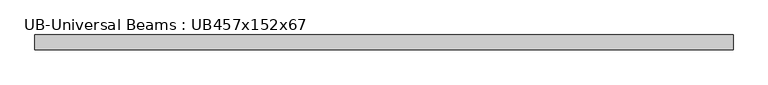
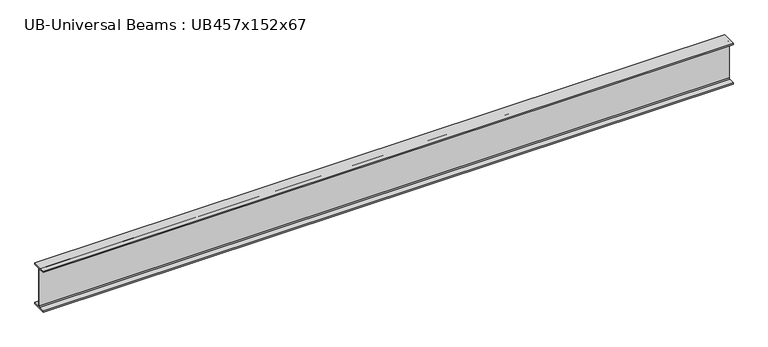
"""IFC4 building model written with IfcOpenShell, lengths in millimetres: beam geometry, UB-Universal Beams : UB457x152x67."""

from ifc_helpers import new_model, si_unit, point, frame, frame_2d, origin, place, context, project, spatial, polyline, circle_curve, trimmed, segment, composite_curve, outline, extrude, source, transform, mapped, element, save


def ub_universal_beams_ub457x152x67_907c3d5a(model_context):
    return source(origin(), model_context, "Body", "SweptSolid", [
        extrude(outline(composite_curve([segment(polyline([(76.9, -214.0), (76.9, -229.0), (-76.9, -229.0), (-76.9, -214.0), (-14.7, -214.0)]), True, "CONTINUOUS"), segment(trimmed(circle_curve(frame_2d((-14.7, -203.8)), 10.2), [point((-14.7, -214.0))], [point((-4.5, -203.8))], True, "CARTESIAN"), True, "CONTINUOUS"), segment(polyline([(-4.5, -203.8), (-4.5, 203.8)]), True, "CONTINUOUS"), segment(trimmed(circle_curve(frame_2d((-14.7, 203.8)), 10.2), [point((-4.5, 203.8))], [point((-14.7, 214.0))], True, "CARTESIAN"), True, "CONTINUOUS"), segment(polyline([(-14.7, 214.0), (-76.9, 214.0), (-76.9, 229.0), (76.9, 229.0), (76.9, 214.0), (14.7, 214.0)]), True, "CONTINUOUS"), segment(trimmed(circle_curve(frame_2d((14.7, 203.8)), 10.2), [point((14.7, 214.0))], [point((4.5, 203.8))], True, "CARTESIAN"), True, "CONTINUOUS"), segment(polyline([(4.5, 203.8), (4.5, -203.8)]), True, "CONTINUOUS"), segment(trimmed(circle_curve(frame_2d((14.7, -203.8)), 10.2), [point((4.5, -203.8))], [point((14.7, -214.0))], True, "CARTESIAN"), True, "CONTINUOUS"), segment(polyline([(14.7, -214.0), (76.9, -214.0)]), True, "CONTINUOUS")], self_intersect=False)), frame((-3737.2, 0.0, 0.0), z_axis=(1.0, 0.0, 0.0), x_axis=(0.0, 1.0, 0.0)), (0.0, 0.0, 1.0), 7317.0),
    ])


if __name__ == "__main__":
    model = new_model("IFC4")
    model_context = context("Model", 3, world=origin())
    ifc_project = project(units=[si_unit("LENGTHUNIT", "METRE", prefix="MILLI")], contexts=[model_context])
    site = spatial("IfcSite", under=ifc_project)
    building = spatial("IfcBuilding", under=site)
    placement = place(None, origin())
    ub_universal_beams_ub457x152x67_shape = ub_universal_beams_ub457x152x67_907c3d5a(model_context)
    element("IfcBeam", 1, ObjectType="UB-Universal Beams : UB457x152x67", at=placement, inside=building, context=model_context, shape_type="MappedRepresentation", body=[
        mapped(ub_universal_beams_ub457x152x67_shape, transform((0.0, 0.0, 0.0), x_axis=(1.0, 0.0, 0.0), y_axis=(0.0, 1.0, 0.0), z_axis=(0.0, 0.0, 1.0))),
    ])
    save(model, "model.ifc")
